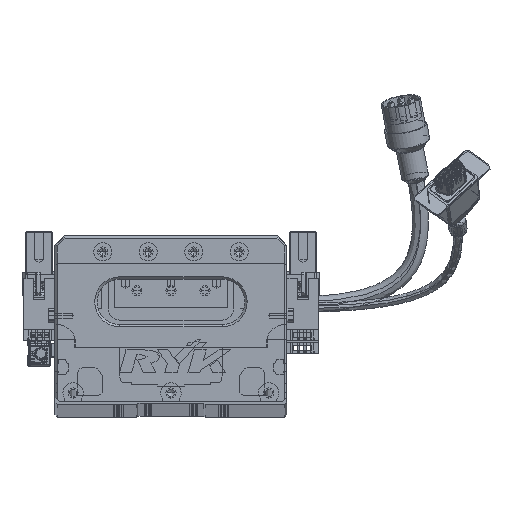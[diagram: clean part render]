
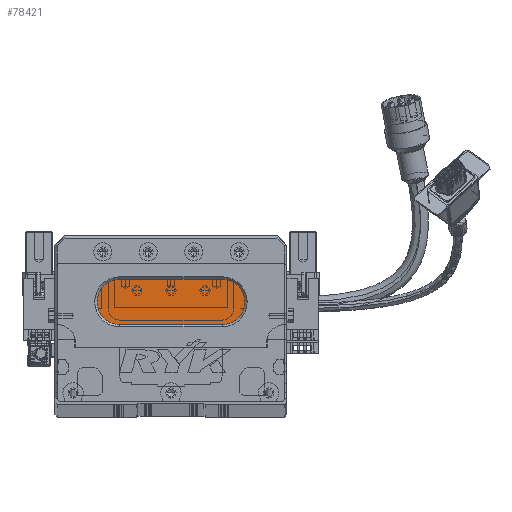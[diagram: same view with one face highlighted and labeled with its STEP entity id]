
A CAD part, top view. The second image highlights one B-rep face of the part: STEP entity #78421.
In plain terms, the highlighted planar face has unit normal (0, 0, 1) as drawn and (0, 0, -1) by its records, which use the part's own axes.
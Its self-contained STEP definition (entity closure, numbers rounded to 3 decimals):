
#742 = EDGE_CURVE ( 'NONE', #91841, #81391, #90481, .T. ) ;
#1437 = CARTESIAN_POINT ( 'NONE',  ( 73.5, 34., 13. ) ) ;
#1748 = DIRECTION ( 'NONE',  ( -1., 0., 0. ) ) ;
#4186 = EDGE_LOOP ( 'NONE', ( #29724, #53266, #17849, #35032, #86346 ) ) ;
#6140 = DIRECTION ( 'NONE',  ( 0., 0., -1. ) ) ;
#11376 = CIRCLE ( 'NONE', #16851, 10. ) ;
#15612 = EDGE_CURVE ( 'NONE', #84306, #46634, #72719, .T. ) ;
#16851 = AXIS2_PLACEMENT_3D ( 'NONE', #48793, #91764, #19133 ) ;
#17849 = ORIENTED_EDGE ( 'NONE', *, *, #15612, .T. ) ;
#19133 = DIRECTION ( 'NONE',  ( -1., 0., 0. ) ) ;
#21407 = VECTOR ( 'NONE', #1748, 1000. ) ;
#24190 = CARTESIAN_POINT ( 'NONE',  ( 18.5, 44., 13. ) ) ;
#27218 = DIRECTION ( 'NONE',  ( -1., 0., 0. ) ) ;
#29724 = ORIENTED_EDGE ( 'NONE', *, *, #41217, .T. ) ;
#35032 = ORIENTED_EDGE ( 'NONE', *, *, #84033, .T. ) ;
#35467 = AXIS2_PLACEMENT_3D ( 'NONE', #86336, #6140, #78417 ) ;
#37449 = CARTESIAN_POINT ( 'NONE',  ( 73.5, 34., 13. ) ) ;
#41217 = EDGE_CURVE ( 'NONE', #81391, #49734, #11376, .T. ) ;
#44972 = CARTESIAN_POINT ( 'NONE',  ( 73.5, 54., 13. ) ) ;
#45902 = EDGE_CURVE ( 'NONE', #49734, #84306, #76203, .T. ) ;
#46634 = VERTEX_POINT ( 'NONE', #24190 ) ;
#48099 = DIRECTION ( 'NONE',  ( 1., 0., 0. ) ) ;
#48793 = CARTESIAN_POINT ( 'NONE',  ( 73.5, 44., 13. ) ) ;
#49734 = VERTEX_POINT ( 'NONE', #37449 ) ;
#51640 = DIRECTION ( 'NONE',  ( 0., 0., -1. ) ) ;
#53266 = ORIENTED_EDGE ( 'NONE', *, *, #45902, .T. ) ;
#56587 = AXIS2_PLACEMENT_3D ( 'NONE', #65279, #51640, #60855 ) ;
#57070 = PLANE ( 'NONE',  #35467 ) ;
#60855 = DIRECTION ( 'NONE',  ( -1., 0., 0. ) ) ;
#63826 = CARTESIAN_POINT ( 'NONE',  ( 28.5, 44., 13. ) ) ;
#64453 = DIRECTION ( 'NONE',  ( 0., 0., -1. ) ) ;
#64813 = FACE_OUTER_BOUND ( 'NONE', #4186, .T. ) ;
#65279 = CARTESIAN_POINT ( 'NONE',  ( 28.5, 44., 13. ) ) ;
#72719 = CIRCLE ( 'NONE', #72899, 10. ) ;
#72899 = AXIS2_PLACEMENT_3D ( 'NONE', #63826, #64453, #27218 ) ;
#75304 = CIRCLE ( 'NONE', #56587, 10. ) ;
#76203 = LINE ( 'NONE', #1437, #21407 ) ;
#77985 = CARTESIAN_POINT ( 'NONE',  ( 73.5, 54., 13. ) ) ;
#78417 = DIRECTION ( 'NONE',  ( -1., 0., 0. ) ) ;
#78421 = ADVANCED_FACE ( 'NONE', ( #64813 ), #57070, .T. ) ;
#78781 = CARTESIAN_POINT ( 'NONE',  ( 28.5, 54., 13. ) ) ;
#81391 = VERTEX_POINT ( 'NONE', #44972 ) ;
#84033 = EDGE_CURVE ( 'NONE', #46634, #91841, #75304, .T. ) ;
#84306 = VERTEX_POINT ( 'NONE', #84965 ) ;
#84759 = VECTOR ( 'NONE', #48099, 1000. ) ;
#84965 = CARTESIAN_POINT ( 'NONE',  ( 28.5, 34., 13. ) ) ;
#86336 = CARTESIAN_POINT ( 'NONE',  ( 73.5, 44., 13. ) ) ;
#86346 = ORIENTED_EDGE ( 'NONE', *, *, #742, .T. ) ;
#90481 = LINE ( 'NONE', #77985, #84759 ) ;
#91764 = DIRECTION ( 'NONE',  ( 0., 0., -1. ) ) ;
#91841 = VERTEX_POINT ( 'NONE', #78781 ) ;
